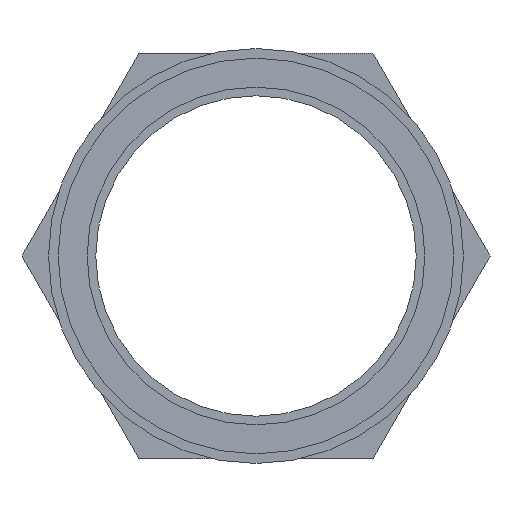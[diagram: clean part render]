
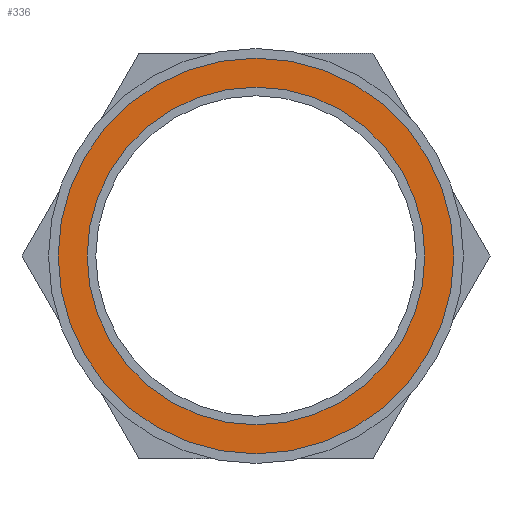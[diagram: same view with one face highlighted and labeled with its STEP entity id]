
A CAD part, left-side view. The second image highlights one B-rep face of the part: STEP entity #336.
In plain terms, the highlighted planar face has unit normal (-1, 0, 0).
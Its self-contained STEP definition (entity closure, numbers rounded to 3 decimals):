
#18 = VERTEX_POINT ( 'NONE', #545 ) ;
#19 = EDGE_CURVE ( 'NONE', #407, #473, #471, .T. ) ;
#26 = CIRCLE ( 'NONE', #792, 17.5 ) ;
#31 = ORIENTED_EDGE ( 'NONE', *, *, #19, .T. ) ;
#126 = DIRECTION ( 'NONE',  ( -1., 0., 0. ) ) ;
#147 = PLANE ( 'NONE',  #248 ) ;
#158 = FACE_OUTER_BOUND ( 'NONE', #790, .T. ) ;
#162 = CIRCLE ( 'NONE', #277, 20.5 ) ;
#227 = CARTESIAN_POINT ( 'NONE',  ( 34., 0., 17.5 ) ) ;
#243 = CARTESIAN_POINT ( 'NONE',  ( 34., 17.5, 0. ) ) ;
#248 = AXIS2_PLACEMENT_3D ( 'NONE', #243, #444, #655 ) ;
#277 = AXIS2_PLACEMENT_3D ( 'NONE', #854, #288, #779 ) ;
#288 = DIRECTION ( 'NONE',  ( -1., 0., 0. ) ) ;
#298 = EDGE_CURVE ( 'NONE', #424, #18, #634, .T. ) ;
#318 = DIRECTION ( 'NONE',  ( -1., 0., 0. ) ) ;
#327 = CARTESIAN_POINT ( 'NONE',  ( 34., 0., 20.5 ) ) ;
#333 = ORIENTED_EDGE ( 'NONE', *, *, #937, .T. ) ;
#336 = ADVANCED_FACE ( 'NONE', ( #1035, #158 ), #147, .F. ) ;
#362 = DIRECTION ( 'NONE',  ( 0., 0., 1. ) ) ;
#407 = VERTEX_POINT ( 'NONE', #327 ) ;
#424 = VERTEX_POINT ( 'NONE', #227 ) ;
#444 = DIRECTION ( 'NONE',  ( 1., 0., 0. ) ) ;
#471 = CIRCLE ( 'NONE', #1019, 20.5 ) ;
#473 = VERTEX_POINT ( 'NONE', #802 ) ;
#500 = ORIENTED_EDGE ( 'NONE', *, *, #835, .F. ) ;
#545 = CARTESIAN_POINT ( 'NONE',  ( 34., 0., -17.5 ) ) ;
#547 = CARTESIAN_POINT ( 'NONE',  ( 34., 0., 0. ) ) ;
#557 = EDGE_LOOP ( 'NONE', ( #1018, #500 ) ) ;
#634 = CIRCLE ( 'NONE', #737, 17.5 ) ;
#655 = DIRECTION ( 'NONE',  ( 0., 0., -1. ) ) ;
#668 = CARTESIAN_POINT ( 'NONE',  ( 34., 0., 0. ) ) ;
#737 = AXIS2_PLACEMENT_3D ( 'NONE', #1013, #126, #847 ) ;
#759 = DIRECTION ( 'NONE',  ( 0., 0., 1. ) ) ;
#779 = DIRECTION ( 'NONE',  ( 0., 0., 1. ) ) ;
#790 = EDGE_LOOP ( 'NONE', ( #31, #333 ) ) ;
#792 = AXIS2_PLACEMENT_3D ( 'NONE', #668, #982, #759 ) ;
#802 = CARTESIAN_POINT ( 'NONE',  ( 34., 0., -20.5 ) ) ;
#835 = EDGE_CURVE ( 'NONE', #18, #424, #26, .T. ) ;
#847 = DIRECTION ( 'NONE',  ( 0., 0., 1. ) ) ;
#854 = CARTESIAN_POINT ( 'NONE',  ( 34., 0., 0. ) ) ;
#937 = EDGE_CURVE ( 'NONE', #473, #407, #162, .T. ) ;
#982 = DIRECTION ( 'NONE',  ( -1., 0., 0. ) ) ;
#1013 = CARTESIAN_POINT ( 'NONE',  ( 34., 0., 0. ) ) ;
#1018 = ORIENTED_EDGE ( 'NONE', *, *, #298, .F. ) ;
#1019 = AXIS2_PLACEMENT_3D ( 'NONE', #547, #318, #362 ) ;
#1035 = FACE_BOUND ( 'NONE', #557, .T. ) ;
